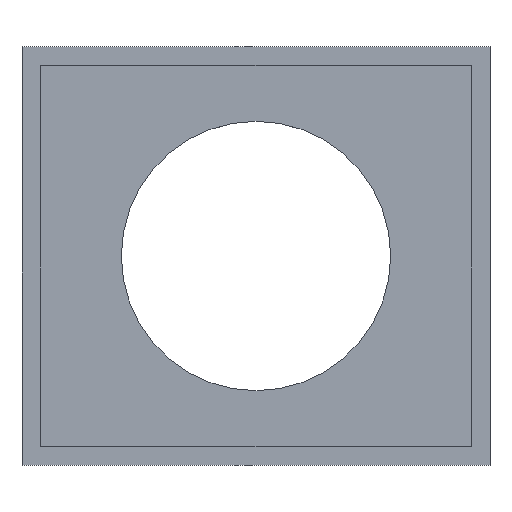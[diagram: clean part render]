
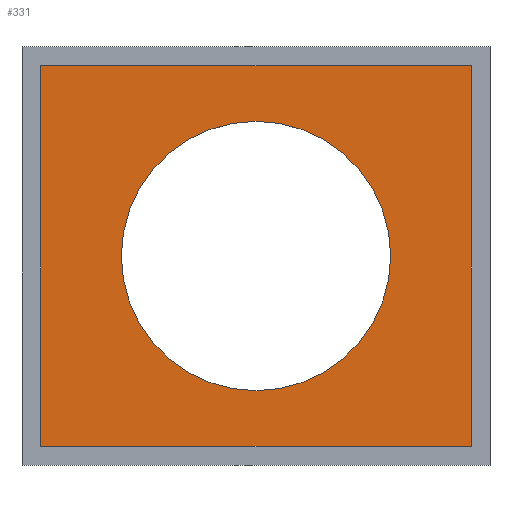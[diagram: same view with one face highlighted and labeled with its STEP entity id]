
A CAD part, top view. The second image highlights one B-rep face of the part: STEP entity #331.
In plain terms, the highlighted planar face has unit normal (0, 0, 1).
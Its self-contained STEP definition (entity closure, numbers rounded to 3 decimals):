
#215 = VERTEX_POINT('',#216);
#216 = CARTESIAN_POINT('',(26.2,-23.2,2.));
#222 = EDGE_CURVE('',#223,#215,#225,.T.);
#223 = VERTEX_POINT('',#224);
#224 = CARTESIAN_POINT('',(-26.2,-23.2,2.));
#225 = LINE('',#226,#227);
#226 = CARTESIAN_POINT('',(-26.2,-23.2,2.));
#227 = VECTOR('',#228,1.);
#228 = DIRECTION('',(1.,0.,0.));
#246 = EDGE_CURVE('',#215,#247,#249,.T.);
#247 = VERTEX_POINT('',#248);
#248 = CARTESIAN_POINT('',(26.2,23.2,2.));
#249 = LINE('',#250,#251);
#250 = CARTESIAN_POINT('',(26.2,-23.2,2.));
#251 = VECTOR('',#252,1.);
#252 = DIRECTION('',(0.,1.,0.));
#270 = EDGE_CURVE('',#271,#247,#273,.T.);
#271 = VERTEX_POINT('',#272);
#272 = CARTESIAN_POINT('',(-26.2,23.2,2.));
#273 = LINE('',#274,#275);
#274 = CARTESIAN_POINT('',(-26.2,23.2,2.));
#275 = VECTOR('',#276,1.);
#276 = DIRECTION('',(1.,0.,0.));
#294 = EDGE_CURVE('',#223,#271,#295,.T.);
#295 = LINE('',#296,#297);
#296 = CARTESIAN_POINT('',(-26.2,-23.2,2.));
#297 = VECTOR('',#298,1.);
#298 = DIRECTION('',(0.,1.,0.));
#310 = EDGE_CURVE('',#311,#311,#313,.T.);
#311 = VERTEX_POINT('',#312);
#312 = CARTESIAN_POINT('',(16.4,0.,2.));
#313 = CIRCLE('',#314,16.4);
#314 = AXIS2_PLACEMENT_3D('',#315,#316,#317);
#315 = CARTESIAN_POINT('',(0.,0.,2.));
#316 = DIRECTION('',(0.,0.,1.));
#317 = DIRECTION('',(1.,0.,0.));
#331 = ADVANCED_FACE('',(#332,#338),#341,.T.);
#332 = FACE_BOUND('',#333,.T.);
#333 = EDGE_LOOP('',(#334,#335,#336,#337));
#334 = ORIENTED_EDGE('',*,*,#294,.F.);
#335 = ORIENTED_EDGE('',*,*,#222,.T.);
#336 = ORIENTED_EDGE('',*,*,#246,.T.);
#337 = ORIENTED_EDGE('',*,*,#270,.F.);
#338 = FACE_BOUND('',#339,.T.);
#339 = EDGE_LOOP('',(#340));
#340 = ORIENTED_EDGE('',*,*,#310,.F.);
#341 = PLANE('',#342);
#342 = AXIS2_PLACEMENT_3D('',#343,#344,#345);
#343 = CARTESIAN_POINT('',(-26.2,-23.2,2.));
#344 = DIRECTION('',(0.,0.,1.));
#345 = DIRECTION('',(1.,0.,0.));
